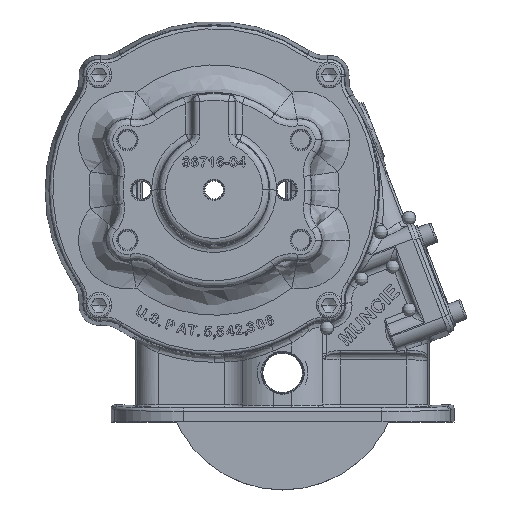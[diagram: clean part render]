
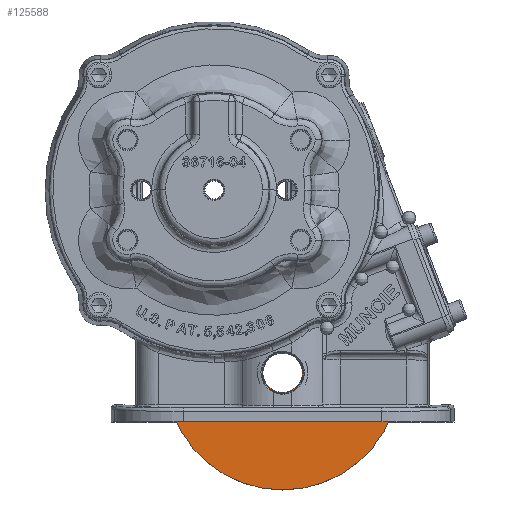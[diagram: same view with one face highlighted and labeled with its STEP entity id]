
A CAD part, top view. The second image highlights one B-rep face of the part: STEP entity #125588.
In plain terms, the highlighted planar face has unit normal (0, 0, 1).
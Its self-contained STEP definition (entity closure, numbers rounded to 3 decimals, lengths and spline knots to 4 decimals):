
#3366 = VERTEX_POINT ( 'NONE', #115079 ) ;
#3369 = VERTEX_POINT ( 'NONE', #115082 ) ;
#3409 = VERTEX_POINT ( 'NONE', #115124 ) ;
#3412 = VERTEX_POINT ( 'NONE', #115127 ) ;
#9428 = CIRCLE ( 'NONE', #9436, 0.3595 ) ;
#9436 = AXIS2_PLACEMENT_3D ( 'NONE', #41601, #41604, #41607 ) ;
#9452 = CIRCLE ( 'NONE', #9456, 2.135 ) ;
#9456 = AXIS2_PLACEMENT_3D ( 'NONE', #41750, #41753, #41756 ) ;
#9460 = CIRCLE ( 'NONE', #9463, 2.135 ) ;
#9462 = CIRCLE ( 'NONE', #9465, 0.3595 ) ;
#9463 = AXIS2_PLACEMENT_3D ( 'NONE', #41794, #41797, #41799 ) ;
#9465 = AXIS2_PLACEMENT_3D ( 'NONE', #41806, #41808, #41811 ) ;
#41601 = CARTESIAN_POINT ( 'NONE',  ( 0.2973, -1.4645, 1.7223 ) ) ;
#41604 = DIRECTION ( 'NONE',  ( 0., 0., -1. ) ) ;
#41607 = DIRECTION ( 'NONE',  ( 0., 1., 0. ) ) ;
#41750 = CARTESIAN_POINT ( 'NONE',  ( 0.2973, -1.4645, 1.7223 ) ) ;
#41753 = DIRECTION ( 'NONE',  ( 0., 0., -1. ) ) ;
#41756 = DIRECTION ( 'NONE',  ( 0., 1., 0. ) ) ;
#41794 = CARTESIAN_POINT ( 'NONE',  ( 0.2973, -1.4645, 1.7223 ) ) ;
#41797 = DIRECTION ( 'NONE',  ( 0., 0., -1. ) ) ;
#41799 = DIRECTION ( 'NONE',  ( 0., 1., 0. ) ) ;
#41806 = CARTESIAN_POINT ( 'NONE',  ( 0.2973, -1.4645, 1.7223 ) ) ;
#41808 = DIRECTION ( 'NONE',  ( 0., 0., -1. ) ) ;
#41811 = DIRECTION ( 'NONE',  ( 0., 1., 0. ) ) ;
#52760 = AXIS2_PLACEMENT_3D ( 'NONE', #171617, #171668, #171671 ) ;
#90127 = ORIENTED_EDGE ( 'NONE', *, *, #157108, .T. ) ;
#90129 = ORIENTED_EDGE ( 'NONE', *, *, #157066, .T. ) ;
#90130 = ORIENTED_EDGE ( 'NONE', *, *, #157106, .F. ) ;
#90131 = ORIENTED_EDGE ( 'NONE', *, *, #157096, .F. ) ;
#115079 = CARTESIAN_POINT ( 'NONE',  ( 0.2973, -1.105, 1.7223 ) ) ;
#115082 = CARTESIAN_POINT ( 'NONE',  ( 0.2973, -1.824, 1.7223 ) ) ;
#115124 = CARTESIAN_POINT ( 'NONE',  ( 0.2973, 0.6705, 1.7223 ) ) ;
#115127 = CARTESIAN_POINT ( 'NONE',  ( 0.2973, -3.5995, 1.7223 ) ) ;
#125588 = ADVANCED_FACE ( 'NONE', ( #171655, #171659 ), #171662, .F. ) ;
#140218 = EDGE_LOOP ( 'NONE', ( #90130, #90131 ) ) ;
#140221 = EDGE_LOOP ( 'NONE', ( #90127, #90129 ) ) ;
#157066 = EDGE_CURVE ( 'NONE', #3369, #3366, #9428, .T. ) ;
#157096 = EDGE_CURVE ( 'NONE', #3409, #3412, #9452, .T. ) ;
#157106 = EDGE_CURVE ( 'NONE', #3412, #3409, #9460, .T. ) ;
#157108 = EDGE_CURVE ( 'NONE', #3366, #3369, #9462, .T. ) ;
#171617 = CARTESIAN_POINT ( 'NONE',  ( 0.2973, -1.4645, 1.7223 ) ) ;
#171655 = FACE_BOUND ( 'NONE', #140221, .T. ) ;
#171659 = FACE_OUTER_BOUND ( 'NONE', #140218, .T. ) ;
#171662 = PLANE ( 'NONE',  #52760 ) ;
#171668 = DIRECTION ( 'NONE',  ( 0., 0., -1. ) ) ;
#171671 = DIRECTION ( 'NONE',  ( 0., 1., 0. ) ) ;
